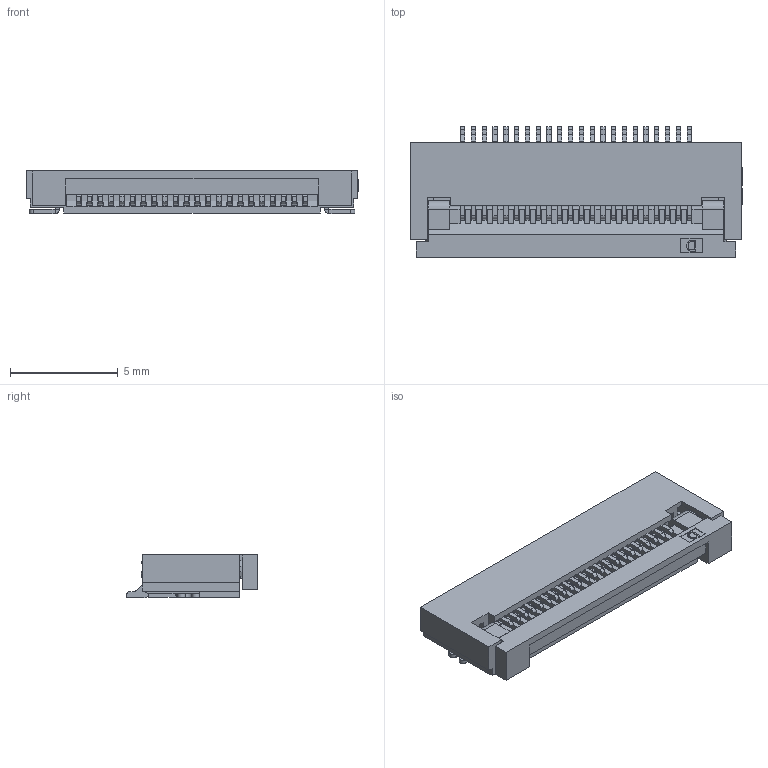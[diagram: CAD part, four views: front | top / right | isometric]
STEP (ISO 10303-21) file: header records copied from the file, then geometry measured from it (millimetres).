
FILE_DESCRIPTION (( 'STEP AP214' ), '1' );
FILE_NAME ('FPC-SMD_22P-P0.50-BL_HCTL_XW05202-220R-00.STEP', '2026-06-29T08:23:24', ( '' ), ( '' ), 'SwSTEP 2.0', 'SolidWorks 2021', '' );
FILE_SCHEMA (( 'AUTOMOTIVE_DESIGN' ));
Length unit declared in the file: millimetre
Products named in the file (1): FPC-SMD_22P-P0.50-BL_HCTL_XW05202-220R-00
Bounding box: 15.4 x 6.04 x 2.04 mm (x, y, z)
Volume: 110.9 mm3; surface area: 773.1 mm2
Topology: 26 solids, 26 shells, 2277 faces, 6586 edges, 4315 vertices
Faces by surface type: plane 1404, cylinder 707, bspline 166
Entity records: 100154 total; most frequent: CARTESIAN_POINT 20077, ORIENTED_EDGE 13172, DIRECTION 9249, EDGE_CURVE 6586, VERTEX_POINT 4315, AXIS2_PLACEMENT_3D 3275, VECTOR 2699, LINE 2699
